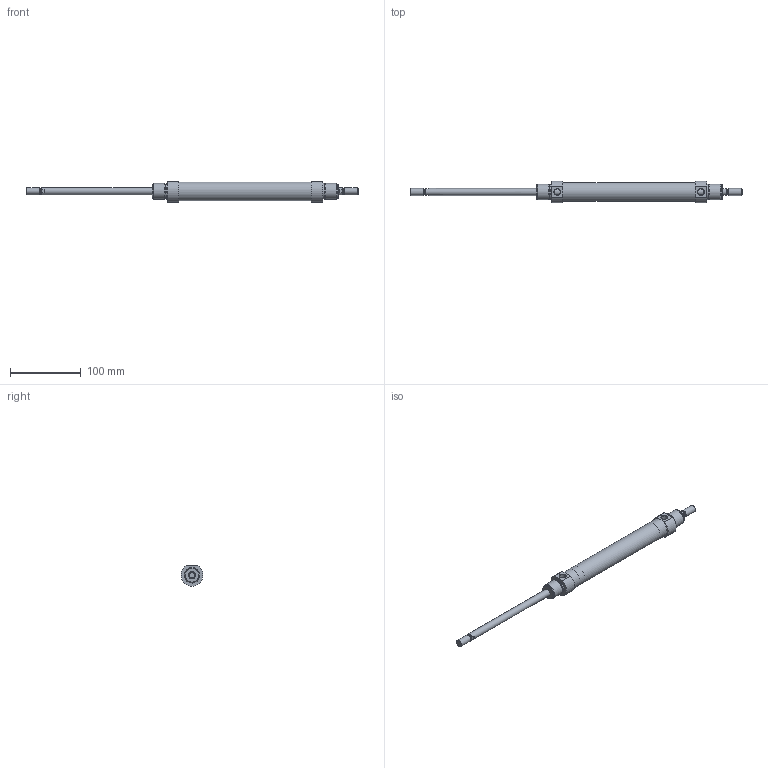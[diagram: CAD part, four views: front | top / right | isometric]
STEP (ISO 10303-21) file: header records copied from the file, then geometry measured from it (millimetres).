
FILE_DESCRIPTION( ( 'STEP AP203' ), '1' );
FILE_NAME( '//expscmdclustefs.cadenas.external/client_exchange/iodir/jobs/output/wkb68465198_no0/STEP/M101-025-0150--__0__2_03.stp', ' ', ( ' ' ), ( ' ' ), 'PSStep 15.0.47', 'PARTsolutions', ' ' );
FILE_SCHEMA( ( 'CONFIG_CONTROL_DESIGN' ) );
Length unit declared in the file: millimetre
Products named in the file (3): M101-025-0150-- [0]; HI_M101-025-0150---[0]-z; HI_M101-025-0150---[0]-k
Assembly tree (2 placements, depth 2):
  M101-025-0150-- [0]
    HI_M101-025-0150---[0]-z
    HI_M101-025-0150---[0]-k
Bounding box: 469 x 31 x 28.79 mm (x, y, z)
Volume: 96705.2 mm3; surface area: 56505.1 mm2
Topology: 2 solids, 2 shells, 63 faces, 123 edges, 74 vertices
Faces by surface type: plane 28, cylinder 23, cone 10, torus 2
Full cylindrical faces by diameter (mm): 8.16 x2, 8.566 x2, 10 x6, 20.16 x4, 22 x4, 25 x2, 26.6 x1
Entity records: 1700 total; most frequent: CARTESIAN_POINT 390, DIRECTION 276, ORIENTED_EDGE 176, AXIS2_PLACEMENT_3D 124, EDGE_LOOP 112, EDGE_CURVE 88, FACE_OUTER_BOUND 86, VERTEX_POINT 72
